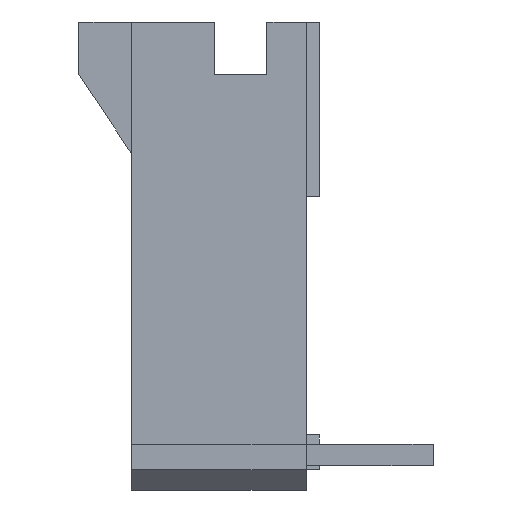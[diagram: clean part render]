
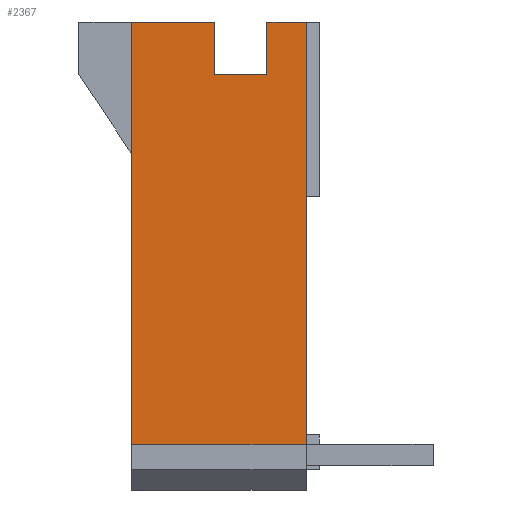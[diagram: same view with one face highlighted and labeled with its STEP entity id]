
A CAD part, left-side view. The second image highlights one B-rep face of the part: STEP entity #2367.
In plain terms, the highlighted planar face has unit normal (-1, 0, 0).
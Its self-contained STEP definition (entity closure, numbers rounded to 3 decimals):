
#478 = CARTESIAN_POINT ( 'NONE',  ( -7.617, 3.048, 11.046 ) ) ;
#479 = CARTESIAN_POINT ( 'NONE',  ( -7.617, 5.461, 12.57 ) ) ;
#480 = DIRECTION ( 'NONE',  ( 0., 1., 0. ) ) ;
#481 = VECTOR ( 'NONE', #480, 1000. ) ;
#482 = CARTESIAN_POINT ( 'NONE',  ( -7.617, 5.461, 12.57 ) ) ;
#486 = LINE ( 'NONE', #482, #481 ) ;
#490 = DIRECTION ( 'NONE',  ( 0., 0., 1. ) ) ;
#491 = VECTOR ( 'NONE', #490, 1000. ) ;
#492 = CARTESIAN_POINT ( 'NONE',  ( -7.617, 3.048, 12.57 ) ) ;
#493 = LINE ( 'NONE', #492, #491 ) ;
#494 = CARTESIAN_POINT ( 'NONE',  ( -7.617, 3.048, 12.57 ) ) ;
#535 = CARTESIAN_POINT ( 'NONE',  ( -7.617, 1.524, 11.046 ) ) ;
#536 = DIRECTION ( 'NONE',  ( 0., 1., 0. ) ) ;
#537 = VECTOR ( 'NONE', #536, 1000. ) ;
#538 = CARTESIAN_POINT ( 'NONE',  ( -7.617, 5.461, 11.046 ) ) ;
#539 = LINE ( 'NONE', #538, #537 ) ;
#564 = DIRECTION ( 'NONE',  ( 0., 0., -1. ) ) ;
#565 = VECTOR ( 'NONE', #564, 1000. ) ;
#566 = CARTESIAN_POINT ( 'NONE',  ( -7.617, 5.461, 12.57 ) ) ;
#567 = LINE ( 'NONE', #566, #565 ) ;
#568 = CARTESIAN_POINT ( 'NONE',  ( -7.617, 5.461, 0.315 ) ) ;
#591 = CARTESIAN_POINT ( 'NONE',  ( -7.617, 1.524, 12.57 ) ) ;
#592 = DIRECTION ( 'NONE',  ( 0., 0., -1. ) ) ;
#593 = VECTOR ( 'NONE', #592, 1000. ) ;
#594 = CARTESIAN_POINT ( 'NONE',  ( -7.617, 1.524, 12.57 ) ) ;
#595 = LINE ( 'NONE', #594, #593 ) ;
#618 = DIRECTION ( 'NONE',  ( 0., -1., 0. ) ) ;
#619 = VECTOR ( 'NONE', #618, 1000. ) ;
#620 = CARTESIAN_POINT ( 'NONE',  ( -7.617, 5.461, 0.315 ) ) ;
#621 = LINE ( 'NONE', #620, #619 ) ;
#622 = CARTESIAN_POINT ( 'NONE',  ( -7.617, 0.381, 0.315 ) ) ;
#668 = DIRECTION ( 'NONE',  ( 0., 1., 0. ) ) ;
#669 = CARTESIAN_POINT ( 'NONE',  ( -7.617, 5.461, 12.57 ) ) ;
#670 = LINE ( 'NONE', #669, #729 ) ;
#728 = CARTESIAN_POINT ( 'NONE',  ( -7.617, 0.381, 12.57 ) ) ;
#729 = VECTOR ( 'NONE', #668, 1000. ) ;
#777 = DIRECTION ( 'NONE',  ( 0., 0., 1. ) ) ;
#778 = DIRECTION ( 'NONE',  ( -1., 0., 0. ) ) ;
#779 = CARTESIAN_POINT ( 'NONE',  ( -7.617, 5.461, 12.57 ) ) ;
#780 = AXIS2_PLACEMENT_3D ( 'NONE', #779, #778, #777 ) ;
#781 = PLANE ( 'NONE',  #780 ) ;
#783 = FACE_OUTER_BOUND ( 'NONE', #2368, .T. ) ;
#880 = DIRECTION ( 'NONE',  ( 0., 0., -1. ) ) ;
#881 = VECTOR ( 'NONE', #880, 1000. ) ;
#882 = CARTESIAN_POINT ( 'NONE',  ( -7.617, 0.381, 12.57 ) ) ;
#883 = LINE ( 'NONE', #882, #881 ) ;
#2151 = VERTEX_POINT ( 'NONE', #494 ) ;
#2153 = EDGE_CURVE ( 'NONE', #2164, #2151, #493, .T. ) ;
#2157 = EDGE_CURVE ( 'NONE', #2151, #2158, #486, .T. ) ;
#2158 = VERTEX_POINT ( 'NONE', #479 ) ;
#2164 = VERTEX_POINT ( 'NONE', #478 ) ;
#2166 = EDGE_CURVE ( 'NONE', #2167, #2164, #539, .T. ) ;
#2167 = VERTEX_POINT ( 'NONE', #535 ) ;
#2194 = VERTEX_POINT ( 'NONE', #568 ) ;
#2196 = EDGE_CURVE ( 'NONE', #2158, #2194, #567, .T. ) ;
#2241 = EDGE_CURVE ( 'NONE', #2242, #2167, #595, .T. ) ;
#2242 = VERTEX_POINT ( 'NONE', #591 ) ;
#2260 = VERTEX_POINT ( 'NONE', #622 ) ;
#2262 = EDGE_CURVE ( 'NONE', #2194, #2260, #621, .T. ) ;
#2320 = EDGE_CURVE ( 'NONE', #2321, #2242, #670, .T. ) ;
#2321 = VERTEX_POINT ( 'NONE', #728 ) ;
#2367 = ADVANCED_FACE ( 'NONE', ( #783 ), #781, .T. ) ;
#2368 = EDGE_LOOP ( 'NONE', ( #2369, #2370, #2371, #2372, #2373, #2428, #2429, #2430 ) ) ;
#2369 = ORIENTED_EDGE ( 'NONE', *, *, #2320, .T. ) ;
#2370 = ORIENTED_EDGE ( 'NONE', *, *, #2241, .T. ) ;
#2371 = ORIENTED_EDGE ( 'NONE', *, *, #2166, .T. ) ;
#2372 = ORIENTED_EDGE ( 'NONE', *, *, #2153, .T. ) ;
#2373 = ORIENTED_EDGE ( 'NONE', *, *, #2157, .T. ) ;
#2428 = ORIENTED_EDGE ( 'NONE', *, *, #2196, .T. ) ;
#2429 = ORIENTED_EDGE ( 'NONE', *, *, #2262, .T. ) ;
#2430 = ORIENTED_EDGE ( 'NONE', *, *, #2431, .F. ) ;
#2431 = EDGE_CURVE ( 'NONE', #2321, #2260, #883, .T. ) ;
